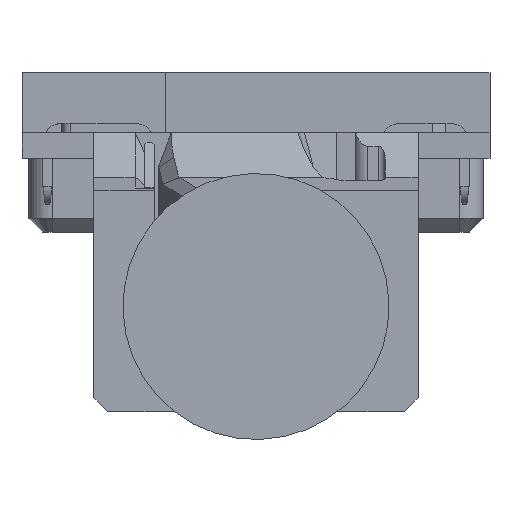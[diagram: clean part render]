
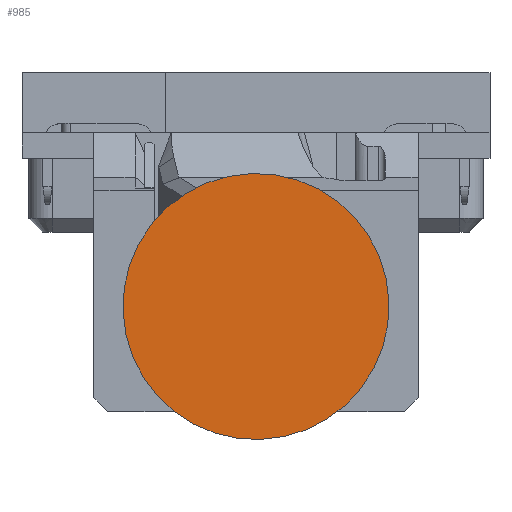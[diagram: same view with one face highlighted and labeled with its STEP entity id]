
A CAD part, front view. The second image highlights one B-rep face of the part: STEP entity #985.
In plain terms, the highlighted planar face has unit normal (0, -1, 0) as drawn and (1, 0, 0) by its records, which use the part's own axes.
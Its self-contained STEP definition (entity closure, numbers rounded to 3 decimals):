
#472=CARTESIAN_POINT('',(16.396,2.85,-2.85));
#473=DIRECTION('',(1.,0.,0.));
#474=DIRECTION('',(0.,0.,-1.));
#475=AXIS2_PLACEMENT_3D('',#472,#473,#474);
#477=CARTESIAN_POINT('',(16.396,2.85,-2.85));
#478=DIRECTION('',(1.,0.,0.));
#479=DIRECTION('',(0.,0.,1.));
#480=AXIS2_PLACEMENT_3D('',#477,#478,#479);
#866=CARTESIAN_POINT('',(16.396,2.85,-5.722));
#867=CARTESIAN_POINT('',(16.396,2.85,0.022));
#868=VERTEX_POINT('',#866);
#869=VERTEX_POINT('',#867);
#974=CARTESIAN_POINT('',(16.396,6.855,-4.198));
#975=DIRECTION('',(1.,0.,0.));
#976=DIRECTION('',(0.,0.,-1.));
#977=AXIS2_PLACEMENT_3D('',#974,#975,#976);
#978=PLANE('',#977);
#980=ORIENTED_EDGE('',*,*,#979,.F.);
#982=ORIENTED_EDGE('',*,*,#981,.F.);
#983=EDGE_LOOP('',(#980,#982));
#984=FACE_OUTER_BOUND('',#983,.F.);
#476=CIRCLE('',#475,2.872);
#481=CIRCLE('',#480,2.872);
#979=EDGE_CURVE('',#868,#869,#476,.T.);
#981=EDGE_CURVE('',#869,#868,#481,.T.);
#985=ADVANCED_FACE('',(#984),#978,.T.);
